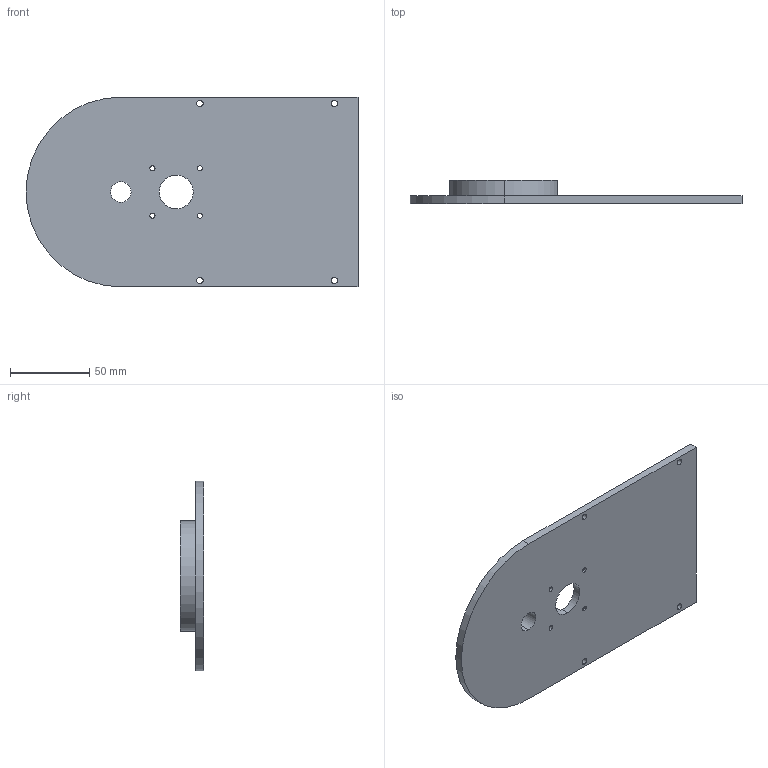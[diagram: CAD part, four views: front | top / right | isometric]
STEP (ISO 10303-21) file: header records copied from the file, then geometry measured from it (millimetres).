
FILE_DESCRIPTION (( 'STEP AP203' ), '1' );
FILE_NAME ('baseplate.STEP', '2017-06-25T11:36:54', ( '' ), ( '' ), 'SwSTEP 2.0', 'SolidWorks 2016', '' );
FILE_SCHEMA (( 'CONFIG_CONTROL_DESIGN' ));
Length unit declared in the file: millimetre
Products named in the file (1): baseplate
Bounding box: 210 x 15 x 120 mm (x, y, z)
Volume: 145882.8 mm3; surface area: 54305.5 mm2
Topology: 1 solids, 1 shells, 50 faces, 132 edges, 88 vertices
Faces by surface type: cylinder 38, plane 12
Entity records: 1715 total; most frequent: DIRECTION 316, CARTESIAN_POINT 271, ORIENTED_EDGE 264, AXIS2_PLACEMENT_3D 133, EDGE_CURVE 132, VERTEX_POINT 88, CIRCLE 82, EDGE_LOOP 74
